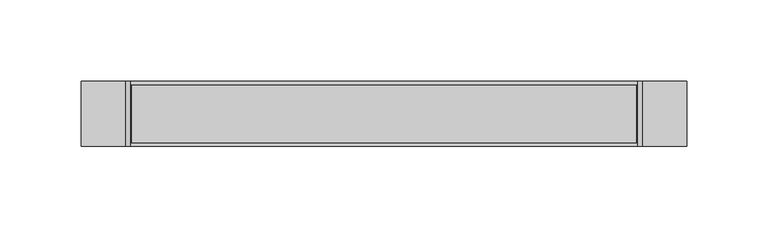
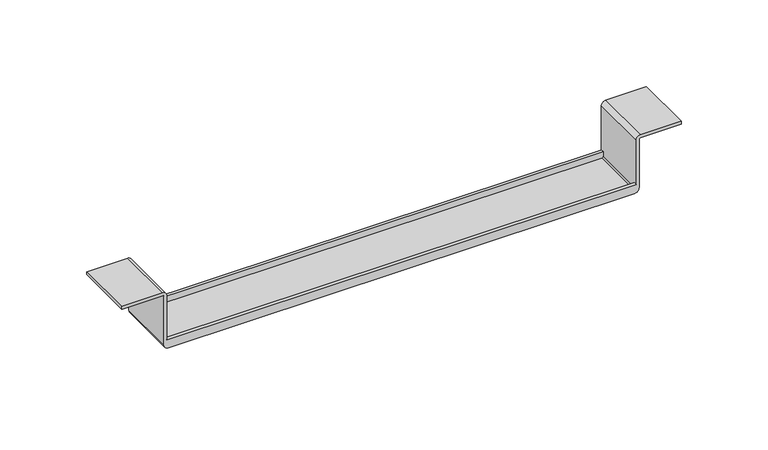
"""IFC4 building model written with IfcOpenShell, lengths in millimetres: proxy geometry, Cable_Tray_Support_SV_Basorsupport : Basorsupport SV 300."""

from ifc_helpers import new_model, si_unit, frame, origin, place, context, project, spatial, polyline, circle_curve, source, transform, mapped, element, save
from ifc_brep_helpers import plane_surface, cylinder_surface, revolved_surface, advanced_brep


def generic_models_44321f8a(model_context):
    return source(origin(), model_context, "Body", "AdvancedBrep", [
        advanced_brep(
        [(156.0, -18.0, 6.0), (-156.0, -18.0, 6.0), (-156.0, -20.0, 6.0), (156.0, -20.0, 6.0), (156.0, 20.0, 6.0), (-156.0, 20.0, 6.0), (-156.0, 18.0, 6.0), (156.0, 18.0, 6.0), (156.0, -18.0, 3.0), (155.0, -18.0, 2.0), (-155.0, -18.0, 2.0), (-156.0, -18.0, 3.0), (-156.0, -20.0, 37.0), (-159.0, -20.0, 40.0), (-186.0, -20.0, 40.0), (-186.0, -20.0, 38.0), (-159.0, -20.0, 38.0), (-158.0, -20.0, 37.0), (-158.0, -20.0, 3.0), (-157.9672045, -20.0, 2.5576232), (-155.0, -20.0, 0.0), (155.0, -20.0, 0.0), (158.0, -20.0, 3.0), (158.0, -20.0, 37.0), (159.0, -20.0, 38.0), (186.0, -20.0, 38.0), (186.0, -20.0, 40.0), (159.0, -20.0, 40.0), (156.0, -20.0, 37.0), (156.0, 20.0, 37.0), (159.0, 20.0, 40.0), (186.0, 20.0, 40.0), (186.0, 20.0, 38.0), (159.0, 20.0, 38.0), (158.0, 20.0, 37.0), (158.0, 20.0, 3.0), (155.0, 20.0, 0.0), (-155.0, 20.0, 0.0), (-157.9672045, 20.0, 2.5576232), (-158.0, 20.0, 3.0), (-158.0, 20.0, 37.0), (-159.0, 20.0, 38.0), (-186.0, 20.0, 38.0), (-186.0, 20.0, 40.0), (-159.0, 20.0, 40.0), (-156.0, 20.0, 37.0), (-156.0, 18.0, 3.0), (-155.0, 18.0, 2.0), (155.0, 18.0, 2.0), (156.0, 18.0, 3.0)],
        [
            (0, 1),
            (1, 2),
            (2, 3),
            (3, 0),
            (4, 5),
            (5, 6),
            (6, 7),
            (7, 4),
            (0, 8),
            (8, 9, circle_curve(frame((155.0, -18.0, 3.0), z_axis=(0.0, 1.0, 0.0), x_axis=(1.0, 0.0, 0.0)), 1.0)),
            (9, 10),
            (10, 11, circle_curve(frame((-155.0, -18.0, 3.0), z_axis=(0.0, 1.0, 0.0), x_axis=(1.0, 0.0, 0.0)), 1.0)),
            (11, 1),
            (2, 12),
            (12, 13, circle_curve(frame((-159.0, -20.0, 37.0), z_axis=(0.0, -1.0, 0.0), x_axis=(1.0, 0.0, 0.0)), 3.0)),
            (13, 14),
            (14, 15),
            (15, 16),
            (16, 17, circle_curve(frame((-159.0, -20.0, 37.0), z_axis=(0.0, 1.0, 0.0), x_axis=(1.0, 0.0, 0.0)), 1.0)),
            (17, 18),
            (18, 19, circle_curve(frame((-155.0, -20.0, 3.0), z_axis=(0.0, -1.0, 0.0), x_axis=(1.0, 0.0, 0.0)), 3.0)),
            (19, 20, circle_curve(frame((-155.0, -20.0, 3.0), z_axis=(0.0, -1.0, 0.0), x_axis=(1.0, 0.0, 0.0)), 3.0)),
            (20, 21),
            (21, 22, circle_curve(frame((155.0, -20.0, 3.0), z_axis=(0.0, -1.0, 0.0), x_axis=(1.0, 0.0, 0.0)), 3.0)),
            (22, 23),
            (23, 24, circle_curve(frame((159.0, -20.0, 37.0), z_axis=(0.0, 1.0, 0.0), x_axis=(1.0, 0.0, 0.0)), 1.0)),
            (24, 25),
            (25, 26),
            (26, 27),
            (27, 28, circle_curve(frame((159.0, -20.0, 37.0), z_axis=(0.0, -1.0, 0.0), x_axis=(1.0, 0.0, 0.0)), 3.0)),
            (28, 3),
            (4, 29),
            (29, 30, circle_curve(frame((159.0, 20.0, 37.0), z_axis=(0.0, 1.0, 0.0), x_axis=(1.0, 0.0, 0.0)), 3.0)),
            (30, 31),
            (31, 32),
            (32, 33),
            (33, 34, circle_curve(frame((159.0, 20.0, 37.0), z_axis=(0.0, -1.0, 0.0), x_axis=(1.0, 0.0, 0.0)), 1.0)),
            (34, 35),
            (35, 36, circle_curve(frame((155.0, 20.0, 3.0), z_axis=(0.0, 1.0, 0.0), x_axis=(1.0, 0.0, 0.0)), 3.0)),
            (36, 37),
            (37, 38, circle_curve(frame((-155.0, 20.0, 3.0), z_axis=(0.0, 1.0, 0.0), x_axis=(1.0, 0.0, 0.0)), 3.0)),
            (38, 39, circle_curve(frame((-155.0, 20.0, 3.0), z_axis=(0.0, 1.0, 0.0), x_axis=(1.0, 0.0, 0.0)), 3.0)),
            (39, 40),
            (40, 41, circle_curve(frame((-159.0, 20.0, 37.0), z_axis=(0.0, -1.0, 0.0), x_axis=(1.0, 0.0, 0.0)), 1.0)),
            (41, 42),
            (42, 43),
            (43, 44),
            (44, 45, circle_curve(frame((-159.0, 20.0, 37.0), z_axis=(0.0, 1.0, 0.0), x_axis=(1.0, 0.0, 0.0)), 3.0)),
            (45, 5),
            (6, 46),
            (46, 47, circle_curve(frame((-155.0, 18.0, 3.0), z_axis=(0.0, -1.0, 0.0), x_axis=(1.0, 0.0, 0.0)), 1.0)),
            (47, 48),
            (48, 49, circle_curve(frame((155.0, 18.0, 3.0), z_axis=(0.0, -1.0, 0.0), x_axis=(1.0, 0.0, 0.0)), 1.0)),
            (49, 7),
            (9, 48),
            (47, 10),
            (28, 29),
            (49, 8),
            (26, 31),
            (30, 27),
            (25, 32),
            (24, 33),
            (22, 35),
            (34, 23),
            (20, 37),
            (36, 21),
            (17, 40),
            (39, 18),
            (15, 42),
            (41, 16),
            (14, 43),
            (13, 44),
            (45, 12),
            (11, 46),
        ],
        [
            plane_surface(frame((156.0, -20.0, 6.0), z_axis=(0.0, 0.0, 1.0), x_axis=(0.0, 1.0, 0.0))),
            plane_surface(frame((156.0, -18.0, 6.0), z_axis=(0.0, 1.0, 0.0), x_axis=(0.0, 0.0, -1.0))),
            plane_surface(frame((-156.0, -20.0, 6.0), z_axis=(0.0, -1.0, 0.0), x_axis=(0.0, 0.0, -1.0))),
            plane_surface(frame((156.0, 20.0, 6.0), z_axis=(0.0, 1.0, 0.0), x_axis=(0.0, 0.0, -1.0))),
            plane_surface(frame((-156.0, 18.0, 6.0), z_axis=(0.0, -1.0, 0.0), x_axis=(0.0, 0.0, -1.0))),
            plane_surface(frame((155.0, -20.0, 2.0), z_axis=(0.0, 0.0, 1.0), x_axis=(0.0, 1.0, 0.0))),
            plane_surface(frame((156.0, -20.0, 37.0), z_axis=(-1.0, 0.0, -1.887055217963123e-12), x_axis=(0.0, 1.0, 0.0))),
            plane_surface(frame((186.0, -20.0, 40.0), z_axis=(0.0, 0.0, 1.0), x_axis=(0.0, 1.0, 0.0))),
            plane_surface(frame((186.0, -20.0, 38.0), z_axis=(1.0, 0.0, 0.0), x_axis=(0.0, 1.0, 0.0))),
            plane_surface(frame((159.0, -20.0, 38.0), z_axis=(0.0, 0.0, -1.0), x_axis=(0.0, 1.0, 0.0))),
            plane_surface(frame((158.0, -20.0, 3.0), z_axis=(1.0, 0.0, 0.0), x_axis=(0.0, 1.0, 0.0))),
            plane_surface(frame((-155.0, -20.0, 0.0), z_axis=(0.0, 0.0, -1.0), x_axis=(0.0, 1.0, 0.0))),
            plane_surface(frame((-158.0, -20.0, 37.0), z_axis=(-1.0, 0.0, 0.0), x_axis=(0.0, 1.0, 0.0))),
            plane_surface(frame((-186.0, -20.0, 38.0), z_axis=(0.0, 0.0, -1.0), x_axis=(0.0, 1.0, 0.0))),
            plane_surface(frame((-186.0, -20.0, 40.0), z_axis=(-1.0, 0.0, 0.0), x_axis=(0.0, 1.0, 0.0))),
            plane_surface(frame((-159.0, -20.0, 40.0), z_axis=(0.0, 0.0, 1.0), x_axis=(0.0, 1.0, 0.0))),
            plane_surface(frame((-156.0, -20.0, 3.0), z_axis=(1.0, 0.0, 0.0), x_axis=(0.0, 1.0, 0.0))),
            cylinder_surface(frame((-159.0, 20.0, 37.0), z_axis=(0.0, -1.0, 0.0), x_axis=(1.0, 0.0, 0.0)), 3.0),
            revolved_surface(polyline([(-158.0, 20.0, 37.0), (-158.0, -20.0, 37.0)]), (-159.0, 20.0, 37.0), (0.0, 1.0, 0.0)),
            cylinder_surface(frame((-155.0, 20.0, 3.0), z_axis=(0.0, -1.0, 0.0), x_axis=(1.0, 0.0, 0.0)), 3.0),
            cylinder_surface(frame((155.0, 20.0, 3.0), z_axis=(0.0, -1.0, 0.0), x_axis=(1.0, 0.0, 0.0)), 3.0),
            revolved_surface(polyline([(160.0, 20.0, 37.0), (160.0, -20.0, 37.0)]), (159.0, 20.0, 37.0), (0.0, 1.0, 0.0)),
            cylinder_surface(frame((159.0, 20.0, 37.0), z_axis=(0.0, -1.0, 0.0), x_axis=(1.0, 0.0, 0.0)), 3.0),
            revolved_surface(polyline([(156.0, 18.0, 3.0), (156.0, -18.0, 3.0)]), (155.0, 20.0, 3.0), (0.0, 1.0, 0.0)),
            revolved_surface(polyline([(-154.0, 18.0, 3.0), (-154.0, -18.0, 3.0)]), (-155.0, 20.0, 3.0), (0.0, 1.0, 0.0)),
        ],
        [
            (0, [[1, 2, 3, 4]]),
            (0, [[5, 6, 7, 8]]),
            (1, [[-1, 9, 10, 11, 12, 13]]),
            (2, [[-3, 14, 15, 16, 17, 18, 19, 20, 21, 22, 23, 24, 25, 26, 27, 28, 29, 30, 31]]),
            (3, [[-5, 32, 33, 34, 35, 36, 37, 38, 39, 40, 41, 42, 43, 44, 45, 46, 47, 48, 49]]),
            (4, [[-7, 50, 51, 52, 53, 54]]),
            (5, [[55, -52, 56, -11]]),
            (6, [[57, -32, -8, -54, 58, -9, -4, -31]]),
            (7, [[-29, 59, -34, 60]]),
            (8, [[-28, 61, -35, -59]]),
            (9, [[-27, 62, -36, -61]]),
            (10, [[-25, 63, -38, 64]]),
            (11, [[-23, 65, -40, 66]]),
            (12, [[-20, 67, -43, 68]]),
            (13, [[-18, 69, -45, 70]]),
            (14, [[-17, 71, -46, -69]]),
            (15, [[-16, 72, -47, -71]]),
            (16, [[73, -14, -2, -13, 74, -50, -6, -49]]),
            (17, [[-15, -73, -48, -72]]),
            (18, [[-19, -70, -44, -67]]),
            (19, [[-22, -21, -68, -42, -41, -65]]),
            (20, [[-24, -66, -39, -63]]),
            (21, [[-26, -64, -37, -62]]),
            (22, [[-30, -60, -33, -57]]),
            (23, [[-55, -10, -58, -53]]),
            (24, [[-56, -51, -74, -12]]),
        ],
    ),
    ])


if __name__ == "__main__":
    model = new_model("IFC4")
    model_context = context("Model", 3, world=origin())
    ifc_project = project(units=[si_unit("LENGTHUNIT", "METRE", prefix="MILLI")], contexts=[model_context])
    site = spatial("IfcSite", under=ifc_project)
    building = spatial("IfcBuilding", under=site)
    placement = place(None, origin())
    generic_models_shape = generic_models_44321f8a(model_context)
    element("IfcBuildingElementProxy", 1, Name="Cable_Tray_Support_SV_Basorsupport : Basorsupport SV 300", ObjectType="Cable_Tray_Support_SV_Basorsupport : Basorsupport SV 300", at=placement, inside=building, context=model_context, shape_type="MappedRepresentation", body=[
        mapped(generic_models_shape, transform((0.0, 0.0, 0.0), x_axis=(1.0, 0.0, 0.0), y_axis=(0.0, 1.0, 0.0), z_axis=(0.0, 0.0, 1.0))),
    ])
    save(model, "model.ifc")
